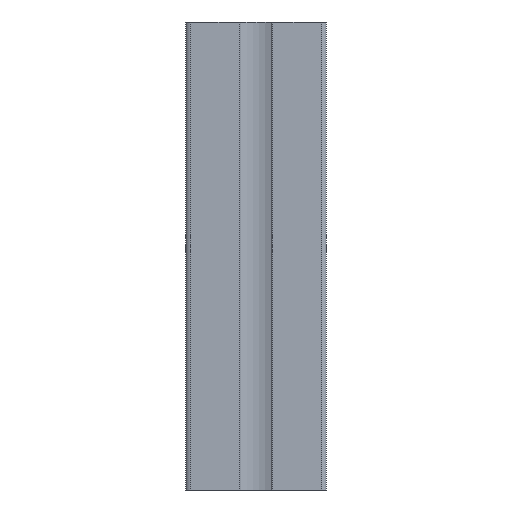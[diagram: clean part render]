
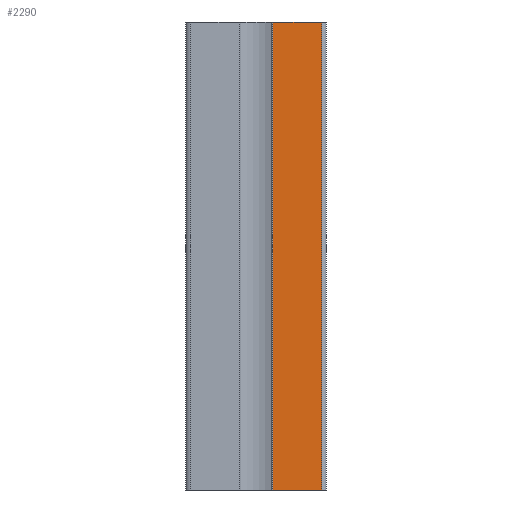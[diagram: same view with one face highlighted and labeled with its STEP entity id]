
A CAD part, front view. The second image highlights one B-rep face of the part: STEP entity #2290.
In plain terms, the highlighted planar face has unit normal (0, -1, 0).
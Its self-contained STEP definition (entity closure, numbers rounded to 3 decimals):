
#286 = DIRECTION ( 'NONE',  ( 1., 0., 0. ) ) ;
#411 = ORIENTED_EDGE ( 'NONE', *, *, #3680, .T. ) ;
#420 = ORIENTED_EDGE ( 'NONE', *, *, #1264, .F. ) ;
#460 = LINE ( 'NONE', #968, #886 ) ;
#500 = DIRECTION ( 'NONE',  ( 0., 0., 1. ) ) ;
#556 = LINE ( 'NONE', #2891, #2449 ) ;
#578 = VERTEX_POINT ( 'NONE', #3636 ) ;
#600 = CARTESIAN_POINT ( 'NONE',  ( 3.55, -15., -50. ) ) ;
#800 = DIRECTION ( 'NONE',  ( 0., 1., 0. ) ) ;
#805 = VERTEX_POINT ( 'NONE', #600 ) ;
#859 = FACE_OUTER_BOUND ( 'NONE', #2237, .T. ) ;
#886 = VECTOR ( 'NONE', #1004, 1000. ) ;
#968 = CARTESIAN_POINT ( 'NONE',  ( 14., -15., 50. ) ) ;
#1004 = DIRECTION ( 'NONE',  ( 0., 0., -1. ) ) ;
#1143 = CARTESIAN_POINT ( 'NONE',  ( 3.55, -15., 50. ) ) ;
#1264 = EDGE_CURVE ( 'NONE', #578, #1649, #556, .T. ) ;
#1426 = PLANE ( 'NONE',  #2164 ) ;
#1586 = ORIENTED_EDGE ( 'NONE', *, *, #2596, .F. ) ;
#1604 = LINE ( 'NONE', #3035, #3401 ) ;
#1649 = VERTEX_POINT ( 'NONE', #3580 ) ;
#1741 = LINE ( 'NONE', #3188, #1875 ) ;
#1875 = VECTOR ( 'NONE', #3471, 1000. ) ;
#1975 = ORIENTED_EDGE ( 'NONE', *, *, #3548, .T. ) ;
#2040 = CARTESIAN_POINT ( 'NONE',  ( 14., -15., -50. ) ) ;
#2164 = AXIS2_PLACEMENT_3D ( 'NONE', #1143, #800, #500 ) ;
#2237 = EDGE_LOOP ( 'NONE', ( #1975, #1586, #420, #411 ) ) ;
#2290 = ADVANCED_FACE ( 'NONE', ( #859 ), #1426, .F. ) ;
#2449 = VECTOR ( 'NONE', #286, 1000. ) ;
#2596 = EDGE_CURVE ( 'NONE', #1649, #3203, #460, .T. ) ;
#2800 = DIRECTION ( 'NONE',  ( 1., 0., 0. ) ) ;
#2891 = CARTESIAN_POINT ( 'NONE',  ( 3.55, -15., 50. ) ) ;
#3035 = CARTESIAN_POINT ( 'NONE',  ( 3.55, -15., -50. ) ) ;
#3188 = CARTESIAN_POINT ( 'NONE',  ( 3.55, -15., 50. ) ) ;
#3203 = VERTEX_POINT ( 'NONE', #2040 ) ;
#3401 = VECTOR ( 'NONE', #2800, 1000. ) ;
#3471 = DIRECTION ( 'NONE',  ( 0., 0., -1. ) ) ;
#3548 = EDGE_CURVE ( 'NONE', #805, #3203, #1604, .T. ) ;
#3580 = CARTESIAN_POINT ( 'NONE',  ( 14., -15., 50. ) ) ;
#3636 = CARTESIAN_POINT ( 'NONE',  ( 3.55, -15., 50. ) ) ;
#3680 = EDGE_CURVE ( 'NONE', #578, #805, #1741, .T. ) ;
